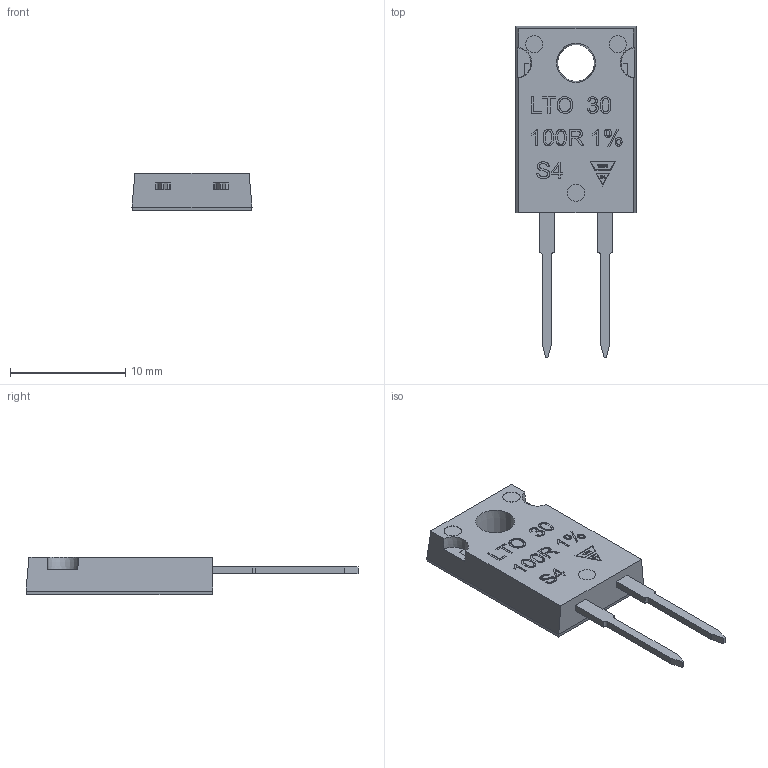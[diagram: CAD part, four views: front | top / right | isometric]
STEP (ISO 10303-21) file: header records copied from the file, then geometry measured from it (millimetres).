
FILE_DESCRIPTION(/* description */ ('Unknown'),/* implementation_level */ '2;1');
FILE_NAME(/* name */ '523395-13 LTO30 3Db',/* time_stamp */ '2025-01-29T17:07:00+01:00',/* author */ ('Unknown'),/* organization */ ('Unknown'),/* preprocessor_version */ 'ST-DEVELOPER v19.4',/* originating_system */ 'Solid Edge',/* authorisation */ 'Unknown');
FILE_SCHEMA (('AUTOMOTIVE_DESIGN {1 0 10303 214 3 1 1}'));
Length unit declared in the file: millimetre
Products named in the file (1): 523395-13 LTO30 3D
Bounding box: 10.44 x 28.87 x 3.22 mm (x, y, z)
Volume: 510.7 mm3; surface area: 596.3 mm2
Topology: 1 solids, 1 shells, 225 faces, 544 edges, 363 vertices
Faces by surface type: plane 179, bspline 30, cylinder 13, cone 3
Full cylindrical faces by diameter (mm): 1.5 x3
Entity records: 9104 total; most frequent: CARTESIAN_POINT 2500, ORIENTED_EDGE 1046, DIRECTION 875, EDGE_CURVE 523, LINE 411, VECTOR 411, VERTEX_POINT 362, EDGE_LOOP 289
